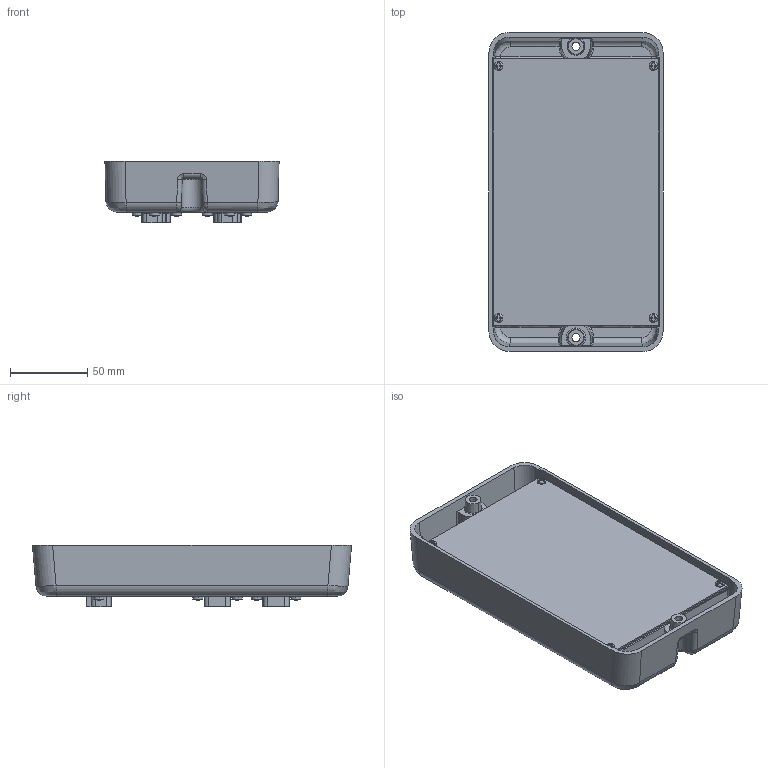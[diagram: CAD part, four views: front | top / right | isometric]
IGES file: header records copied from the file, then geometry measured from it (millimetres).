
Global section: file name: No Iges File Name specified; native system: Autodesk Inventor 2011; preprocessor: AutoDesk Inventor Iges Exporter R2011; author: Trivella; date: 20120413.111917; units: millimetre
Bounding box: 112.57 x 206.27 x 40 mm (x, y, z)
Volume: 184681.1 mm3; surface area: 192681.3 mm2
Topology: 31 solids, 31 shells, 1031 faces, 2764 edges, 1806 vertices
Faces by surface type: plane 364, bspline 234, revolution 163, cone 128, cylinder 72, torus 58, sphere 12
